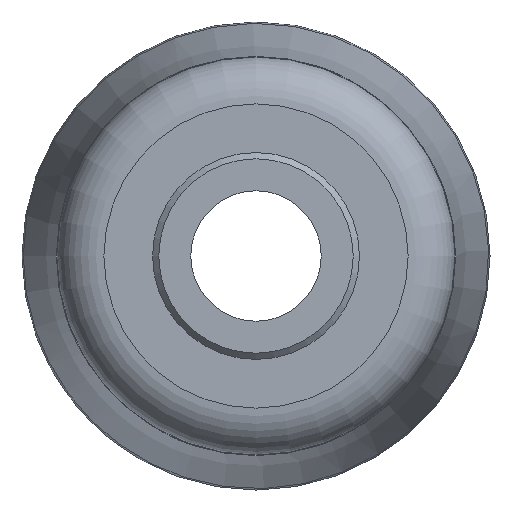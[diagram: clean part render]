
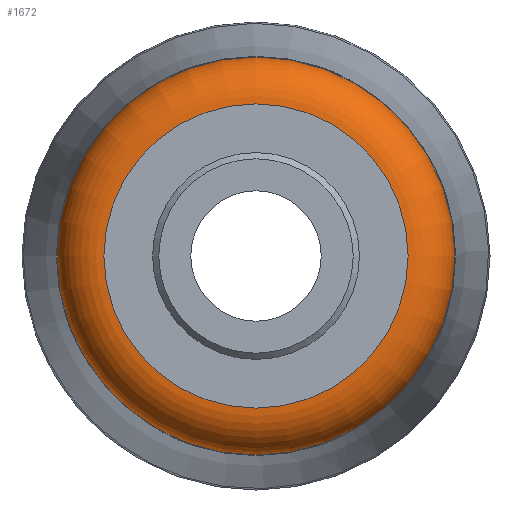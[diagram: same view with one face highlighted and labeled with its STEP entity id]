
A CAD part, left-side view. The second image highlights one B-rep face of the part: STEP entity #1672.
In plain terms, the highlighted toroidal (fillet/blend) face has major radius 22.75 mm and minor radius 7 mm.
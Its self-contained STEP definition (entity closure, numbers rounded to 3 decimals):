
#16=TOROIDAL_SURFACE('',#1828,22.75,7.);
#353=FACE_BOUND('',#498,.T.);
#388=FACE_OUTER_BOUND('',#497,.T.);
#497=EDGE_LOOP('',(#1219));
#498=EDGE_LOOP('',(#1220));
#613=CIRCLE('',#1807,29.75);
#626=CIRCLE('',#1829,22.75);
#725=VERTEX_POINT('',#2853);
#735=VERTEX_POINT('',#2911);
#896=EDGE_CURVE('',#725,#725,#613,.T.);
#912=EDGE_CURVE('',#735,#735,#626,.T.);
#1219=ORIENTED_EDGE('',*,*,#912,.T.);
#1220=ORIENTED_EDGE('',*,*,#896,.T.);
#1672=ADVANCED_FACE('',(#388,#353),#16,.T.);
#1807=AXIS2_PLACEMENT_3D('',#2854,#2076,#2077);
#1828=AXIS2_PLACEMENT_3D('',#2910,#2119,#2120);
#1829=AXIS2_PLACEMENT_3D('',#2912,#2121,#2122);
#2076=DIRECTION('center_axis',(-1.,0.,0.));
#2077=DIRECTION('ref_axis',(0.,-1.,0.));
#2119=DIRECTION('center_axis',(1.,0.,0.));
#2120=DIRECTION('ref_axis',(0.,0.,-1.));
#2121=DIRECTION('center_axis',(1.,0.,0.));
#2122=DIRECTION('ref_axis',(0.,-1.,0.));
#2853=CARTESIAN_POINT('',(24.,29.75,0.));
#2854=CARTESIAN_POINT('Origin',(24.,0.,0.));
#2910=CARTESIAN_POINT('Origin',(24.,0.,0.));
#2911=CARTESIAN_POINT('',(17.,22.75,0.));
#2912=CARTESIAN_POINT('Origin',(17.,0.,0.));
